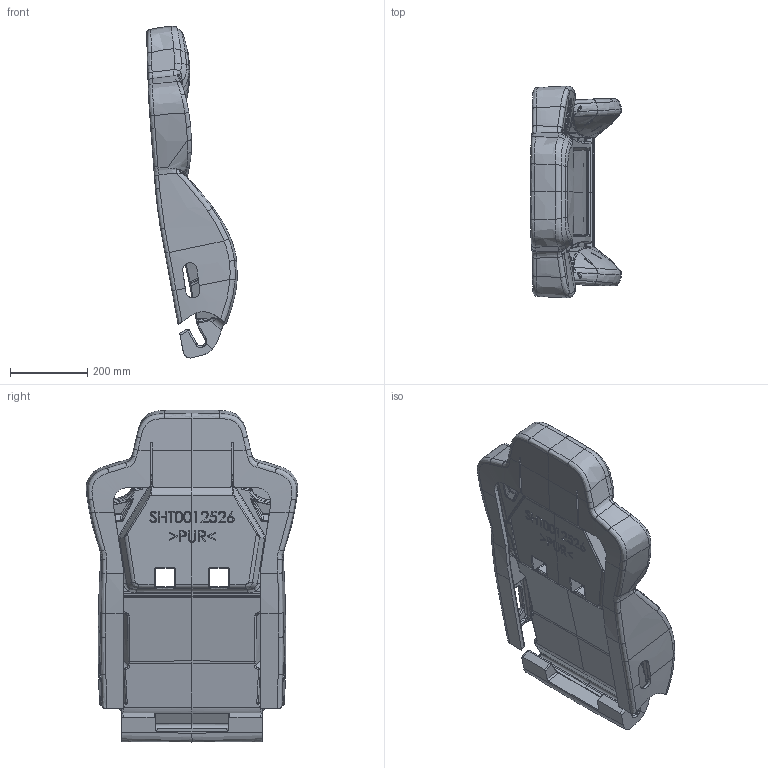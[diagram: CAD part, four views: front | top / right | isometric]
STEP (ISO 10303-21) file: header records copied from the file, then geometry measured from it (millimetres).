
FILE_DESCRIPTION(('CATIA V5 STEP Exchange'),'2;1');
FILE_NAME('C:\Users\zhangchangjiang\Desktop\SHT0012526.stp','2021-02-04T05:51:57+00:00',('none'),('none'),'CATIA Version 5 Release 20 GA (IN-10)','CATIA V5 STEP AP214','none');
FILE_SCHEMA(('AUTOMOTIVE_DESIGN { 1 0 10303 214 1 1 1 1 }'));
Products named in the file (7): SHT0012526; SHT0012527; SLT0001093; SHT0010551; SHT0010552; SHT0010553; SHT0010619
Assembly tree (7 placements, depth 2):
  SHT0012526
    SHT0012527
    SLT0001093
    SHT0010551
    SHT0010552  x2
    SHT0010553
    SHT0010619
Bounding box: 234.81 x 548.22 x 860.56 mm (x, y, z)
Volume: 20769562.9 mm3; surface area: 1540104.6 mm2
Topology: 7 solids, 7 shells, 5103 faces, 13197 edges, 7697 vertices
Faces by surface type: bspline 2144, plane 1812, cylinder 541, sphere 422, torus 110, extrusion 48, revolution 26
Entity records: 350147 total; most frequent: CARTESIAN_POINT 249838, ORIENTED_EDGE 25468, EDGE_CURVE 12734, DIRECTION 12031, VERTEX_POINT 7685, B_SPLINE_CURVE_WITH_KNOTS 6274, VECTOR 5664, LINE 5616
